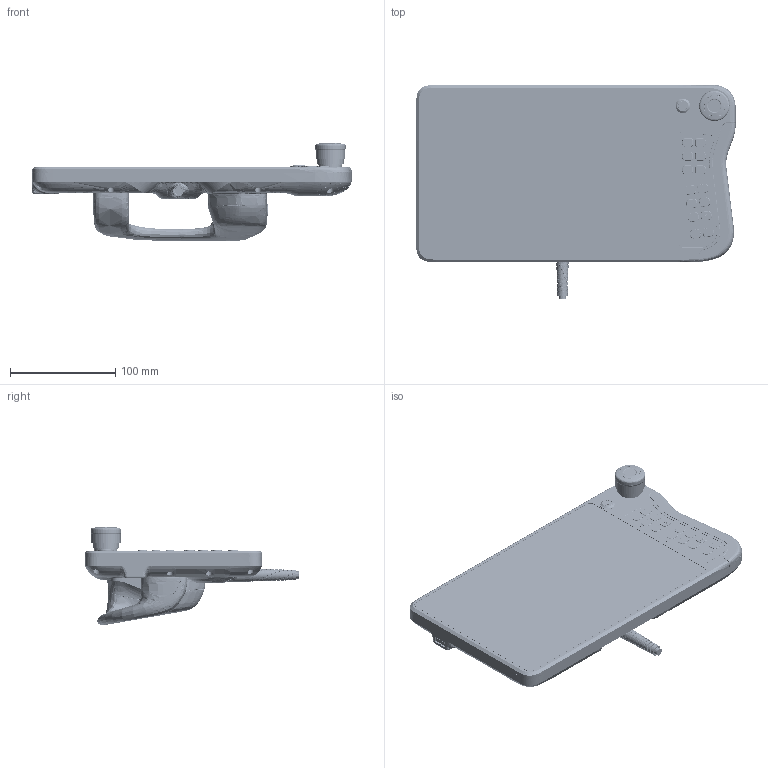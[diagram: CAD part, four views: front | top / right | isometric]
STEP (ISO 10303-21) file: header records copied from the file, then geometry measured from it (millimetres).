
FILE_DESCRIPTION (( 'STEP AP214' ), '1' );
FILE_NAME ('俋倛杅耀_ERP500尨諒ん.STEP', '2025-09-02T05:14:56', ( '' ), ( '' ), 'SwSTEP 2.0', 'SolidWorks 2020', '' );
FILE_SCHEMA (( 'AUTOMOTIVE_DESIGN' ));
Length unit declared in the file: millimetre
Products named in the file (16): 俋倛杅耀_ERP500尨諒ん; NA60300272_ヶ褲极-ERP500S尨諒ん_V01; 摹礿偌聽_XA1E-BV3U02K; NA60401709_拖动按钮固定板-ERP500S示教器?; NA60300274_后壳把手软套-ERP500S示教器; NA60300276_偌聽臚泂-500S尨諒ん_V01; NB40000156_eTPS10_USB PCBA; NA60300273_綴褲极-ERP500S尨諒ん_V01; NA60300278_示教器线束压块-ERP500S示教器_v01; そ躉-3D_GV101WXM-N80_B8; 揖類そ; 尨諒ん盄旰_SR; 迍雄偌聽; NA20900434_10.1寸显示屏+触摸屏; NA60300275_手持软套-ERP500S示教器_V01; 羲壽偌聽_GQ12F-10DT
Assembly tree (15 placements, depth 3):
  俋倛杅耀_ERP500尨諒ん
    NA60300272_ヶ褲极-ERP500S尨諒ん_V01
    NA60300275_手持软套-ERP500S示教器_V01
    NA60300273_綴褲极-ERP500S尨諒ん_V01
    NA60300274_后壳把手软套-ERP500S示教器
    NA60401709_拖动按钮固定板-ERP500S示教器?
    NA20900434_10.1寸显示屏+触摸屏
      揖類そ
      そ躉-3D_GV101WXM-N80_B8
    NA60300278_示教器线束压块-ERP500S示教器_v01
    NA60300276_偌聽臚泂-500S尨諒ん_V01
    羲壽偌聽_GQ12F-10DT
    摹礿偌聽_XA1E-BV3U02K
    NB40000156_eTPS10_USB PCBA
    尨諒ん盄旰_SR
    迍雄偌聽
Bounding box: 303.87 x 203.84 x 93.12 mm (x, y, z)
Volume: 396935 mm3; surface area: 406663.9 mm2
Topology: 20 solids, 42 shells, 7093 faces, 18454 edges, 11258 vertices
Faces by surface type: plane 2435, cylinder 2088, bspline 1767, torus 458, cone 242, sphere 103
Entity records: 536011 total; most frequent: CARTESIAN_POINT 334453, ORIENTED_EDGE 35754, DIRECTION 25631, EDGE_CURVE 17877, VERTEX_POINT 11248, AXIS2_PLACEMENT_3D 9343, EDGE_LOOP 7689, ADVANCED_FACE 7094
